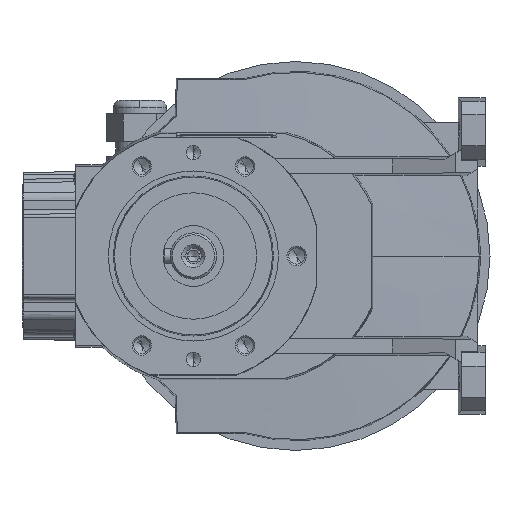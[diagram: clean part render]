
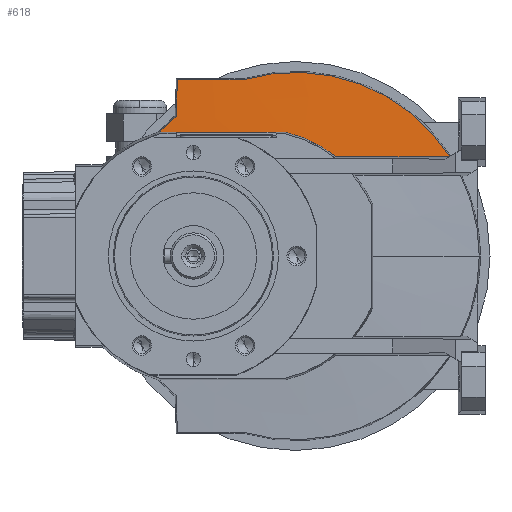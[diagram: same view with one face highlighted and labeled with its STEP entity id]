
A CAD part, left-side view. The second image highlights one B-rep face of the part: STEP entity #618.
In plain terms, the highlighted conical face has half-angle 87 degrees and reference radius 45 mm.
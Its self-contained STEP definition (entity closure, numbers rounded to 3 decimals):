
#618 = ADVANCED_FACE( '', ( #2926 ), #2927, .T. );
#2926 = FACE_OUTER_BOUND( '', #7453, .T. );
#2927 = CONICAL_SURFACE( '', #7454, 45., 1.518 );
#7453 = EDGE_LOOP( '', ( #12650, #12651, #12652, #12653, #12654, #12655, #12656, #12657, #12658, #12659 ) );
#7454 = AXIS2_PLACEMENT_3D( '', #12660, #12661, #12662 );
#12650 = ORIENTED_EDGE( '', *, *, #30727, .T. );
#12651 = ORIENTED_EDGE( '', *, *, #30616, .F. );
#12652 = ORIENTED_EDGE( '', *, *, #30745, .F. );
#12653 = ORIENTED_EDGE( '', *, *, #30746, .F. );
#12654 = ORIENTED_EDGE( '', *, *, #30747, .F. );
#12655 = ORIENTED_EDGE( '', *, *, #30748, .F. );
#12656 = ORIENTED_EDGE( '', *, *, #30749, .F. );
#12657 = ORIENTED_EDGE( '', *, *, #30750, .F. );
#12658 = ORIENTED_EDGE( '', *, *, #30751, .T. );
#12659 = ORIENTED_EDGE( '', *, *, #30752, .T. );
#12660 = CARTESIAN_POINT( '', ( -34.601, 0., 0. ) );
#12661 = DIRECTION( '', ( 1., 0., 0. ) );
#12662 = DIRECTION( '', ( 0., 1., 0. ) );
#30616 = EDGE_CURVE( '', #36820, #36822, #36823, .T. );
#30727 = EDGE_CURVE( '', #37006, #36822, #37007, .T. );
#30745 = EDGE_CURVE( '', #37034, #36820, #37035, .T. );
#30746 = EDGE_CURVE( '', #37036, #37034, #37037, .T. );
#30747 = EDGE_CURVE( '', #37038, #37036, #37039, .T. );
#30748 = EDGE_CURVE( '', #37040, #37038, #37041, .T. );
#30749 = EDGE_CURVE( '', #37042, #37040, #37043, .T. );
#30750 = EDGE_CURVE( '', #37044, #37042, #37045, .T. );
#30751 = EDGE_CURVE( '', #37044, #37046, #37047, .T. );
#30752 = EDGE_CURVE( '', #37046, #37006, #37048, .T. );
#36820 = VERTEX_POINT( '', #47135 );
#36822 = VERTEX_POINT( '', #47146 );
#36823 = CIRCLE( '', #47147, 75.546 );
#37006 = VERTEX_POINT( '', #47523 );
#37007 = ( B_SPLINE_CURVE( 2, ( #47525, #47526, #47527 ), .UNSPECIFIED., .F., .F. )B_SPLINE_CURVE_WITH_KNOTS( ( 3, 3 ), ( 158.722, 158.742 ), .UNSPECIFIED. )RATIONAL_B_SPLINE_CURVE( ( 1.054, 1.052, 1.049 ) )BOUNDED_CURVE(  )REPRESENTATION_ITEM( '' )GEOMETRIC_REPRESENTATION_ITEM(  )CURVE(  ) );
#37034 = VERTEX_POINT( '', #47594 );
#37035 = ( B_SPLINE_CURVE( 2, ( #47596, #47597, #47598 ), .UNSPECIFIED., .F., .F. )B_SPLINE_CURVE_WITH_KNOTS( ( 3, 3 ), ( 0.874, 49.643 ), .UNSPECIFIED. )RATIONAL_B_SPLINE_CURVE( ( 1.004, 1.106, 1.106 ) )BOUNDED_CURVE(  )REPRESENTATION_ITEM( '' )GEOMETRIC_REPRESENTATION_ITEM(  )CURVE(  ) );
#37036 = VERTEX_POINT( '', #47605 );
#37037 = ( B_SPLINE_CURVE( 2, ( #47607, #47608, #47609 ), .UNSPECIFIED., .F., .F. )B_SPLINE_CURVE_WITH_KNOTS( ( 3, 3 ), ( 108.838, 143.715 ), .UNSPECIFIED. )RATIONAL_B_SPLINE_CURVE( ( 1.274, 1.184, 1.008 ) )BOUNDED_CURVE(  )REPRESENTATION_ITEM( '' )GEOMETRIC_REPRESENTATION_ITEM(  )CURVE(  ) );
#37038 = VERTEX_POINT( '', #47616 );
#37039 = CIRCLE( '', #47617, 75.546 );
#37040 = VERTEX_POINT( '', #47618 );
#37041 = CIRCLE( '', #47619, 75.546 );
#37042 = VERTEX_POINT( '', #47620 );
#37043 = ( B_SPLINE_CURVE( 2, ( #47622, #47623, #47624 ), .UNSPECIFIED., .F., .F. )B_SPLINE_CURVE_WITH_KNOTS( ( 3, 3 ), ( 60.976, 111.739 ), .UNSPECIFIED. )RATIONAL_B_SPLINE_CURVE( ( 1.241, 1.221, 1.001 ) )BOUNDED_CURVE(  )REPRESENTATION_ITEM( '' )GEOMETRIC_REPRESENTATION_ITEM(  )CURVE(  ) );
#37044 = VERTEX_POINT( '', #47631 );
#37045 = B_SPLINE_CURVE_WITH_KNOTS( '', 3, ( #47632, #47633, #47634, #47635, #47636, #47637, #47638, #47639, #47640, #47641, #47642, #47643, #47644, #47645, #47646, #47647, #47648, #47649, #47650, #47651, #47652, #47653, #47654, #47655, #47656, #47657, #47658, #47659 ), .UNSPECIFIED., .F., .F., ( 4, 2, 2, 2, 2, 2, 2, 2, 2, 2, 2, 2, 2, 4 ), ( 123.573, 124.038, 129.45, 134.862, 140.274, 145.686, 149.061, 152.436, 155.811, 159.186, 162.561, 165.936, 169.312, 169.456 ), .UNSPECIFIED. );
#37046 = VERTEX_POINT( '', #47660 );
#37047 = ( B_SPLINE_CURVE( 2, ( #47662, #47663, #47664 ), .UNSPECIFIED., .F., .F. )B_SPLINE_CURVE_WITH_KNOTS( ( 3, 3 ), ( 59.355, 80.04 ), .UNSPECIFIED. )RATIONAL_B_SPLINE_CURVE( ( 1.154, 1.104, 1. ) )BOUNDED_CURVE(  )REPRESENTATION_ITEM( '' )GEOMETRIC_REPRESENTATION_ITEM(  )CURVE(  ) );
#37048 = ( B_SPLINE_CURVE( 2, ( #47672, #47673, #47674 ), .UNSPECIFIED., .F., .F. )B_SPLINE_CURVE_WITH_KNOTS( ( 3, 3 ), ( 126.732, 144.157 ), .UNSPECIFIED. )RATIONAL_B_SPLINE_CURVE( ( 1.29, 1.202, 1.085 ) )BOUNDED_CURVE(  )REPRESENTATION_ITEM( '' )GEOMETRIC_REPRESENTATION_ITEM(  )CURVE(  ) );
#47135 = CARTESIAN_POINT( '', ( -33., 21.078, 72.546 ) );
#47146 = CARTESIAN_POINT( '', ( -33., -63.456, 40.995 ) );
#47147 = AXIS2_PLACEMENT_3D( '', #63778, #63779, #63780 );
#47523 = CARTESIAN_POINT( '', ( -33.02, -63.122, 40.803 ) );
#47525 = CARTESIAN_POINT( '', ( -33.02, -63.122, 40.803 ) );
#47526 = CARTESIAN_POINT( '', ( -33.01, -63.288, 40.899 ) );
#47527 = CARTESIAN_POINT( '', ( -33., -63.456, 40.995 ) );
#47594 = CARTESIAN_POINT( '', ( -32.382, 48.582, 72.568 ) );
#47596 = CARTESIAN_POINT( '', ( -32.382, 48.582, 72.568 ) );
#47597 = CARTESIAN_POINT( '', ( -33.158, 22.041, 72.541 ) );
#47598 = CARTESIAN_POINT( '', ( -33.158, 0., 72.541 ) );
#47605 = CARTESIAN_POINT( '', ( -33., 49.09, 57.423 ) );
#47607 = CARTESIAN_POINT( '', ( -33.891, 50., 30.465 ) );
#47608 = CARTESIAN_POINT( '', ( -33.456, 49.425, 47.358 ) );
#47609 = CARTESIAN_POINT( '', ( -32.382, 48.582, 72.568 ) );
#47616 = CARTESIAN_POINT( '', ( -33., 55.771, 50.959 ) );
#47617 = AXIS2_PLACEMENT_3D( '', #63910, #63911, #63912 );
#47618 = CARTESIAN_POINT( '', ( -33., 55.781, 50.948 ) );
#47619 = AXIS2_PLACEMENT_3D( '', #63913, #63914, #63915 );
#47620 = CARTESIAN_POINT( '', ( -34.282, 4.084, 50.925 ) );
#47622 = CARTESIAN_POINT( '', ( -34.282, 4.084, 50.925 ) );
#47623 = CARTESIAN_POINT( '', ( -34.194, 24.937, 50.927 ) );
#47624 = CARTESIAN_POINT( '', ( -33., 55.781, 50.948 ) );
#47631 = CARTESIAN_POINT( '', ( -34.649, -16.744, 40.774 ) );
#47632 = CARTESIAN_POINT( '', ( -34.955, -31.739, 21.334 ) );
#47633 = CARTESIAN_POINT( '', ( -34.954, -31.673, 21.483 ) );
#47634 = CARTESIAN_POINT( '', ( -34.952, -31.605, 21.632 ) );
#47635 = CARTESIAN_POINT( '', ( -34.933, -30.745, 23.51 ) );
#47636 = CARTESIAN_POINT( '', ( -34.914, -29.858, 25.197 ) );
#47637 = CARTESIAN_POINT( '', ( -34.873, -27.911, 28.456 ) );
#47638 = CARTESIAN_POINT( '', ( -34.85, -26.851, 30.028 ) );
#47639 = CARTESIAN_POINT( '', ( -34.803, -24.583, 33.03 ) );
#47640 = CARTESIAN_POINT( '', ( -34.779, -23.375, 34.46 ) );
#47641 = CARTESIAN_POINT( '', ( -34.728, -20.842, 37.158 ) );
#47642 = CARTESIAN_POINT( '', ( -34.702, -19.516, 38.425 ) );
#47643 = CARTESIAN_POINT( '', ( -34.66, -17.299, 40.338 ) );
#47644 = CARTESIAN_POINT( '', ( -34.643, -16.405, 41.061 ) );
#47645 = CARTESIAN_POINT( '', ( -34.608, -14.542, 42.465 ) );
#47646 = CARTESIAN_POINT( '', ( -34.589, -13.574, 43.147 ) );
#47647 = CARTESIAN_POINT( '', ( -34.553, -11.572, 44.453 ) );
#47648 = CARTESIAN_POINT( '', ( -34.534, -10.54, 45.078 ) );
#47649 = CARTESIAN_POINT( '', ( -34.496, -8.424, 46.259 ) );
#47650 = CARTESIAN_POINT( '', ( -34.476, -7.341, 46.816 ) );
#47651 = CARTESIAN_POINT( '', ( -34.438, -5.139, 47.851 ) );
#47652 = CARTESIAN_POINT( '', ( -34.418, -4.02, 48.33 ) );
#47653 = CARTESIAN_POINT( '', ( -34.379, -1.761, 49.206 ) );
#47654 = CARTESIAN_POINT( '', ( -34.36, -0.621, 49.603 ) );
#47655 = CARTESIAN_POINT( '', ( -34.322, 1.662, 50.311 ) );
#47656 = CARTESIAN_POINT( '', ( -34.303, 2.804, 50.622 ) );
#47657 = CARTESIAN_POINT( '', ( -34.283, 3.988, 50.903 ) );
#47658 = CARTESIAN_POINT( '', ( -34.283, 4.036, 50.914 ) );
#47659 = CARTESIAN_POINT( '', ( -34.282, 4.084, 50.925 ) );
#47660 = CARTESIAN_POINT( '', ( -33.965, -40., 40.786 ) );
#47662 = CARTESIAN_POINT( '', ( -34.649, -16.744, 40.774 ) );
#47663 = CARTESIAN_POINT( '', ( -34.447, -26.872, 40.778 ) );
#47664 = CARTESIAN_POINT( '', ( -33.965, -40., 40.786 ) );
#47672 = CARTESIAN_POINT( '', ( -33.965, -40., 40.786 ) );
#47673 = CARTESIAN_POINT( '', ( -33.593, -50.152, 40.793 ) );
#47674 = CARTESIAN_POINT( '', ( -33., -63.579, 40.803 ) );
#63778 = CARTESIAN_POINT( '', ( -33., 0., 0. ) );
#63779 = DIRECTION( '', ( 1., 0., 0. ) );
#63780 = DIRECTION( '', ( 0., 1., 0. ) );
#63910 = CARTESIAN_POINT( '', ( -33., 0., 0. ) );
#63911 = DIRECTION( '', ( 1., 0., 0. ) );
#63912 = DIRECTION( '', ( 0., 1., 0. ) );
#63913 = CARTESIAN_POINT( '', ( -33., 0., 0. ) );
#63914 = DIRECTION( '', ( 1., 0., 0. ) );
#63915 = DIRECTION( '', ( 0., 1., 0. ) );
